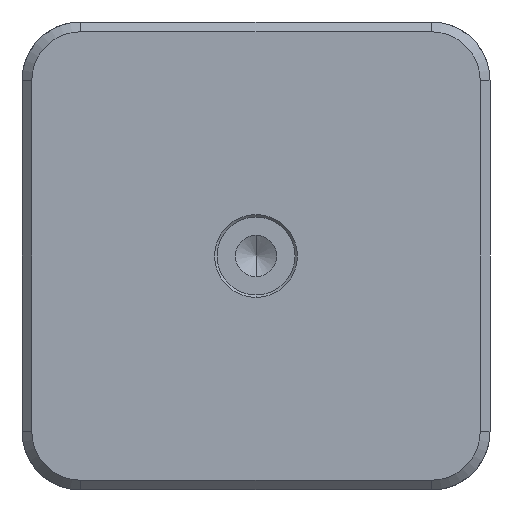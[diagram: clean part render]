
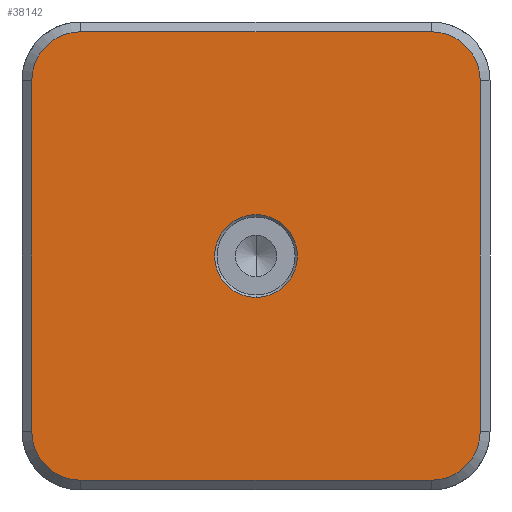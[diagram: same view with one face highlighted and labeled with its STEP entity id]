
A CAD part, front view. The second image highlights one B-rep face of the part: STEP entity #38142.
In plain terms, the highlighted planar face has unit normal (0, -1, 0).
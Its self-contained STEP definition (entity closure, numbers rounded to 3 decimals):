
#8 = ORIENTED_EDGE ( 'NONE', *, *, #26553, .T. ) ;
#171 = ORIENTED_EDGE ( 'NONE', *, *, #13610, .T. ) ;
#436 = CARTESIAN_POINT ( 'NONE',  ( 12., 0., -94. ) ) ;
#779 = CARTESIAN_POINT ( 'NONE',  ( 0., 0., -2. ) ) ;
#1210 = CARTESIAN_POINT ( 'NONE',  ( 0., 0., -96. ) ) ;
#1212 = ORIENTED_EDGE ( 'NONE', *, *, #64708, .T. ) ;
#1221 = LINE ( 'NONE', #4299, #43659 ) ;
#1434 = CARTESIAN_POINT ( 'NONE',  ( 12., 0., -2. ) ) ;
#3057 = CARTESIAN_POINT ( 'NONE',  ( 0., 0., -94. ) ) ;
#3475 = CARTESIAN_POINT ( 'NONE',  ( 84., 0., -2. ) ) ;
#4080 = CARTESIAN_POINT ( 'NONE',  ( 94., 0., -12. ) ) ;
#4299 = CARTESIAN_POINT ( 'NONE',  ( 94., 0., -96. ) ) ;
#4637 = VECTOR ( 'NONE', #43808, 1000. ) ;
#4928 = EDGE_LOOP ( 'NONE', ( #25473, #8 ) ) ;
#5079 = DIRECTION ( 'NONE',  ( 0., 0., 1. ) ) ;
#5997 = AXIS2_PLACEMENT_3D ( 'NONE', #60929, #27790, #66479 ) ;
#7751 = CIRCLE ( 'NONE', #5997, 10. ) ;
#9900 = VERTEX_POINT ( 'NONE', #11761 ) ;
#10584 = FACE_OUTER_BOUND ( 'NONE', #29222, .T. ) ;
#11761 = CARTESIAN_POINT ( 'NONE',  ( 48., 0., -56.5 ) ) ;
#11774 = AXIS2_PLACEMENT_3D ( 'NONE', #17256, #55932, #22799 ) ;
#12796 = EDGE_CURVE ( 'NONE', #9900, #18519, #17888, .T. ) ;
#13118 = VERTEX_POINT ( 'NONE', #3475 ) ;
#13610 = EDGE_CURVE ( 'NONE', #36960, #20028, #1221, .T. ) ;
#14595 = CIRCLE ( 'NONE', #24455, 10. ) ;
#17256 = CARTESIAN_POINT ( 'NONE',  ( 12., 0., -84. ) ) ;
#17888 = CIRCLE ( 'NONE', #17899, 8.5 ) ;
#17899 = AXIS2_PLACEMENT_3D ( 'NONE', #28266, #66942, #33803 ) ;
#18519 = VERTEX_POINT ( 'NONE', #65206 ) ;
#19150 = CIRCLE ( 'NONE', #39478, 10. ) ;
#19269 = CARTESIAN_POINT ( 'NONE',  ( 2., 0., -12. ) ) ;
#20028 = VERTEX_POINT ( 'NONE', #4080 ) ;
#21587 = CARTESIAN_POINT ( 'NONE',  ( 2., 0., -96. ) ) ;
#22564 = CIRCLE ( 'NONE', #11774, 10. ) ;
#22799 = DIRECTION ( 'NONE',  ( -1., 0., 0. ) ) ;
#23564 = FACE_BOUND ( 'NONE', #4928, .T. ) ;
#23684 = DIRECTION ( 'NONE',  ( 0., 1., 0. ) ) ;
#23729 = EDGE_CURVE ( 'NONE', #20028, #13118, #14595, .T. ) ;
#24455 = AXIS2_PLACEMENT_3D ( 'NONE', #71361, #38240, #5079 ) ;
#25034 = ORIENTED_EDGE ( 'NONE', *, *, #54738, .T. ) ;
#25473 = ORIENTED_EDGE ( 'NONE', *, *, #12796, .T. ) ;
#26550 = ORIENTED_EDGE ( 'NONE', *, *, #28802, .T. ) ;
#26553 = EDGE_CURVE ( 'NONE', #18519, #9900, #57617, .T. ) ;
#26611 = CARTESIAN_POINT ( 'NONE',  ( 2., 0., -84. ) ) ;
#27790 = DIRECTION ( 'NONE',  ( 0., -1., 0. ) ) ;
#28045 = CARTESIAN_POINT ( 'NONE',  ( 94., 0., -84. ) ) ;
#28266 = CARTESIAN_POINT ( 'NONE',  ( 48., 0., -48. ) ) ;
#28802 = EDGE_CURVE ( 'NONE', #13118, #50693, #45986, .T. ) ;
#28966 = CARTESIAN_POINT ( 'NONE',  ( 84., 0., -84. ) ) ;
#29222 = EDGE_LOOP ( 'NONE', ( #60482, #26550, #37570, #25034, #48804, #56713, #1212, #171 ) ) ;
#29813 = EDGE_CURVE ( 'NONE', #50693, #54017, #7751, .T. ) ;
#29959 = AXIS2_PLACEMENT_3D ( 'NONE', #56810, #23684, #62392 ) ;
#30651 = DIRECTION ( 'NONE',  ( 1., 0., 0. ) ) ;
#33803 = DIRECTION ( 'NONE',  ( 0., 0., -1. ) ) ;
#34514 = DIRECTION ( 'NONE',  ( 0., 0., 1. ) ) ;
#34627 = DIRECTION ( 'NONE',  ( 0., 0., -1. ) ) ;
#36447 = VECTOR ( 'NONE', #30651, 1000. ) ;
#36960 = VERTEX_POINT ( 'NONE', #28045 ) ;
#37570 = ORIENTED_EDGE ( 'NONE', *, *, #29813, .T. ) ;
#38142 = ADVANCED_FACE ( 'NONE', ( #10584, #23564 ), #56651, .T. ) ;
#38240 = DIRECTION ( 'NONE',  ( 0., -1., 0. ) ) ;
#38479 = VERTEX_POINT ( 'NONE', #26611 ) ;
#39478 = AXIS2_PLACEMENT_3D ( 'NONE', #28966, #67645, #34514 ) ;
#39527 = DIRECTION ( 'NONE',  ( -1., 0., 0. ) ) ;
#43018 = DIRECTION ( 'NONE',  ( 0., 0., 1. ) ) ;
#43659 = VECTOR ( 'NONE', #43018, 1000. ) ;
#43808 = DIRECTION ( 'NONE',  ( 0., 0., -1. ) ) ;
#45658 = EDGE_CURVE ( 'NONE', #68950, #65074, #66640, .T. ) ;
#45986 = LINE ( 'NONE', #779, #60674 ) ;
#48804 = ORIENTED_EDGE ( 'NONE', *, *, #50598, .T. ) ;
#50586 = LINE ( 'NONE', #21587, #4637 ) ;
#50598 = EDGE_CURVE ( 'NONE', #38479, #68950, #22564, .T. ) ;
#50693 = VERTEX_POINT ( 'NONE', #1434 ) ;
#54017 = VERTEX_POINT ( 'NONE', #19269 ) ;
#54546 = CARTESIAN_POINT ( 'NONE',  ( 84., 0., -94. ) ) ;
#54738 = EDGE_CURVE ( 'NONE', #54017, #38479, #50586, .T. ) ;
#55932 = DIRECTION ( 'NONE',  ( 0., -1., 0. ) ) ;
#56651 = PLANE ( 'NONE',  #61093 ) ;
#56713 = ORIENTED_EDGE ( 'NONE', *, *, #45658, .T. ) ;
#56810 = CARTESIAN_POINT ( 'NONE',  ( 48., 0., -48. ) ) ;
#57617 = CIRCLE ( 'NONE', #29959, 8.5 ) ;
#60482 = ORIENTED_EDGE ( 'NONE', *, *, #23729, .T. ) ;
#60674 = VECTOR ( 'NONE', #39527, 1000. ) ;
#60929 = CARTESIAN_POINT ( 'NONE',  ( 12., 0., -12. ) ) ;
#61093 = AXIS2_PLACEMENT_3D ( 'NONE', #1210, #67771, #34627 ) ;
#62392 = DIRECTION ( 'NONE',  ( 0., 0., -1. ) ) ;
#64708 = EDGE_CURVE ( 'NONE', #65074, #36960, #19150, .T. ) ;
#65074 = VERTEX_POINT ( 'NONE', #54546 ) ;
#65206 = CARTESIAN_POINT ( 'NONE',  ( 48., 0., -39.5 ) ) ;
#66479 = DIRECTION ( 'NONE',  ( 0., 0., 1. ) ) ;
#66640 = LINE ( 'NONE', #3057, #36447 ) ;
#66942 = DIRECTION ( 'NONE',  ( 0., 1., 0. ) ) ;
#67645 = DIRECTION ( 'NONE',  ( 0., -1., 0. ) ) ;
#67771 = DIRECTION ( 'NONE',  ( 0., -1., 0. ) ) ;
#68950 = VERTEX_POINT ( 'NONE', #436 ) ;
#71361 = CARTESIAN_POINT ( 'NONE',  ( 84., 0., -12. ) ) ;
